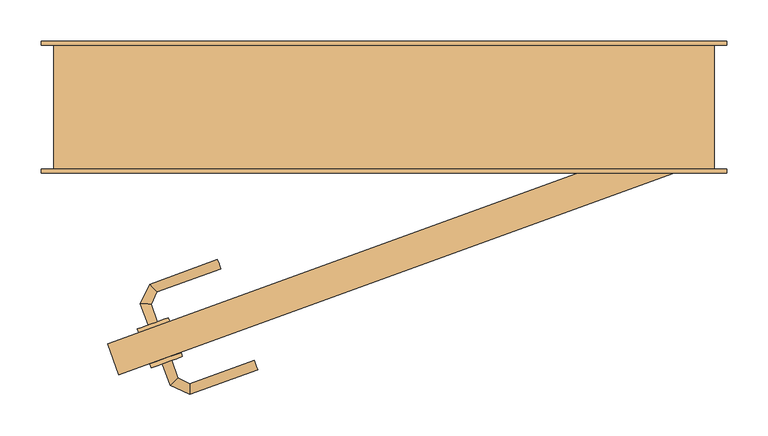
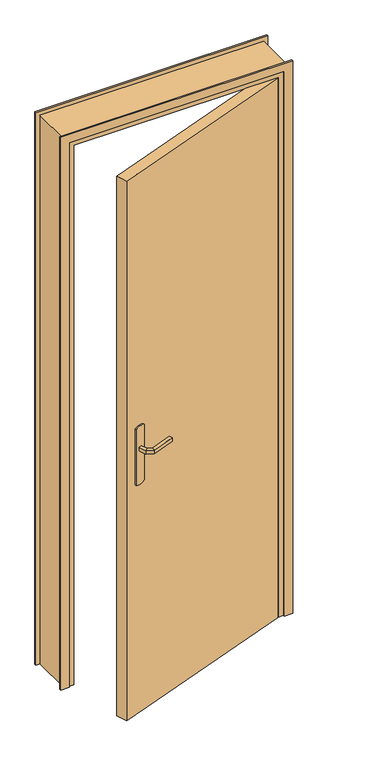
"""IFC4 building model written with IfcOpenShell, lengths in millimetres: door geometry, @_Int. Simple : @_PP (0.73m x 2.04m)."""

from ifc_helpers import new_model, si_unit, point, frame, frame_2d, origin, origin_with_axes, place, context, project, spatial, polyline, circle_curve, ellipse_curve, trimmed, segment, composite_curve, outline, extrude, faceted_brep, source, transform, mapped, element, save
from ifc_brep_helpers import plane_surface, cylinder_surface, advanced_brep


def door_72424c43(model_context):
    return source(origin(), model_context, "Body", "SolidModel", [
        extrude(outline(composite_curve([segment(trimmed(circle_curve(frame_2d((0.0, -40.0)), 40.0), [point((-34.6410162, -60.0))], [point((-34.6410162, -20.0))], False, "CARTESIAN"), True, "CONTINUOUS"), segment(polyline([(-34.6410162, -20.0), (175.3589838, -20.0)]), True, "CONTINUOUS"), segment(trimmed(circle_curve(frame_2d((140.7179676, -40.0)), 40.0), [point((175.3589838, -20.0))], [point((175.3589838, -60.0))], False, "CARTESIAN"), True, "CONTINUOUS"), segment(polyline([(175.3589838, -60.0), (-34.6410162, -60.0)]), True, "CONTINUOUS")], self_intersect=False)), frame((-260.2962504, -295.1711534, 904.6410162), z_axis=(-0.3420201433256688, 0.9396926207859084, 0.0), x_axis=(0.0, 0.0, 1.0)), (0.0, 0.0, 1.0), 5.0),
        extrude(outline(composite_curve([segment(trimmed(circle_curve(frame_2d((0.0, -40.0000001)), 40.0), [point((34.6410162, -20.0))], [point((34.6410162, -60.0))], False, "CARTESIAN"), True, "CONTINUOUS"), segment(polyline([(34.6410162, -60.0), (-175.3589838, -60.0)]), True, "CONTINUOUS"), segment(trimmed(circle_curve(frame_2d((-140.7179676, -40.0000001)), 40.0), [point((-175.3589838, -60.0))], [point((-175.3589838, -20.0))], False, "CARTESIAN"), True, "CONTINUOUS"), segment(polyline([(-175.3589838, -20.0), (34.6410162, -20.0)]), True, "CONTINUOUS")], self_intersect=False)), frame((-275.6871568, -252.8849855, 1045.3589838), z_axis=(-0.3420201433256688, 0.9396926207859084, 0.0), x_axis=(0.0, 0.0, 1.0)), (0.0, 0.0, 1.0), 5.0),
        advanced_brep(
        [(-303.5221109, -310.90408, 1007.0), (-292.2457995, -306.7998383, 1007.0), (-292.2457995, -306.7998383, 993.0), (-303.5221109, -310.90408, 993.0), (-294.0649288, -336.8874743, 1007.0), (-284.4886499, -328.1124315, 1007.0), (-284.4886499, -328.1124315, 993.0), (-294.0649288, -336.8874743, 993.0), (-270.5106242, -347.8710269, 1007.0), (-269.9440648, -334.8946829, 1007.0), (-269.9440648, -334.8946829, 993.0), (-270.5106242, -347.8710269, 993.0), (-188.1546186, -317.8958923, 1007.0), (-188.1546186, -317.8958923, 993.0), (-192.2588603, -306.6195808, 993.0), (-192.2588603, -306.6195808, 1007.0)],
        [
            (0, 1, circle_curve(frame((-297.8839552, -308.8519591, 986.9542278), z_axis=(-0.34202014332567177, 0.9396926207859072, 0.0), x_axis=(0.9396926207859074, 0.3420201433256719, 0.0)), 20.9244589)),
            (1, 2),
            (2, 3, circle_curve(frame((-297.8839552, -308.8519591, 1013.0457722), z_axis=(-0.34202014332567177, 0.9396926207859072, 0.0), x_axis=(0.9396926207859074, 0.3420201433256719, 0.0)), 20.9244589)),
            (3, 0),
            (0, 4),
            (4, 5, ellipse_curve(frame((-289.2767894, -332.4999529, 986.9542278), z_axis=(-0.6755902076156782, 0.7372773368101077, 0.0), x_axis=(0.7372773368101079, 0.6755902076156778, 0.0)), 22.6484711, 20.9244589)),
            (5, 1),
            (5, 6),
            (6, 2),
            (6, 7, ellipse_curve(frame((-289.2767894, -332.4999529, 1013.0457722), z_axis=(-0.6755902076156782, 0.7372773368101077, 0.0), x_axis=(0.7372773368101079, 0.6755902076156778, 0.0)), 22.6484711, 20.9244589)),
            (7, 3),
            (7, 4),
            (4, 8),
            (8, 9, ellipse_curve(frame((-270.2273445, -341.3828549, 986.9542278), z_axis=(-0.9990482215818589, 0.0436193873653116, 0.0), x_axis=(0.04361938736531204, 0.9990482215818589, 0.0)), 22.6484711, 20.9244589)),
            (9, 5),
            (9, 10),
            (10, 6),
            (10, 11, ellipse_curve(frame((-270.2273445, -341.3828549, 1013.0457722), z_axis=(-0.9990482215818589, 0.0436193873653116, 0.0), x_axis=(0.04361938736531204, 0.9990482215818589, 0.0)), 22.6484711, 20.9244589)),
            (11, 7),
            (11, 8),
            (12, 13),
            (13, 14, circle_curve(frame((-190.2067394, -312.2577366, 1013.0457722), z_axis=(0.9396926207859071, 0.34202014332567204, 0.0), x_axis=(-0.34202014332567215, 0.9396926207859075, 0.0)), 20.9244589)),
            (14, 15),
            (15, 12, circle_curve(frame((-190.2067394, -312.2577366, 986.9542278), z_axis=(0.9396926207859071, 0.34202014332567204, 0.0), x_axis=(-0.34202014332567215, 0.9396926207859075, 0.0)), 20.9244589)),
            (8, 12),
            (15, 9),
            (14, 10),
            (13, 11),
        ],
        [
            plane_surface(frame((-306.5474931, -312.005229, 1000.0), z_axis=(-0.3420201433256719, 0.9396926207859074, 0.0), x_axis=(0.0, 0.0, -1.0))),
            cylinder_surface(frame((-297.8839552, -308.8519591, 986.9542278), z_axis=(-0.34202014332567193, 0.9396926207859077, 0.0), x_axis=(0.9396926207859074, 0.3420201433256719, 0.0)), 20.9244589),
            plane_surface(frame((-292.2457995, -306.7998383, 1007.0), z_axis=(0.9396926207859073, 0.3420201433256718, 0.0), x_axis=(0.3420201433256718, -0.9396926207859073, 0.0))),
            cylinder_surface(frame((-297.8839552, -308.8519591, 1013.0457722), z_axis=(-0.34202014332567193, 0.9396926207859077, 0.0), x_axis=(0.9396926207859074, 0.3420201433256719, 0.0)), 20.9244589),
            plane_surface(frame((-303.5221109, -310.90408, 993.0), z_axis=(-0.9396926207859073, -0.3420201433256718, 0.0), x_axis=(0.3420201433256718, -0.9396926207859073, 0.0))),
            cylinder_surface(frame((-289.2767894, -332.4999529, 986.9542278), z_axis=(-0.9063077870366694, 0.4226182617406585, 0.0), x_axis=(0.4226182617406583, 0.9063077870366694, 0.0)), 20.9244589),
            plane_surface(frame((-284.4886499, -328.1124315, 1007.0), z_axis=(0.4226182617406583, 0.9063077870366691, 0.0), x_axis=(0.9063077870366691, -0.4226182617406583, 0.0))),
            cylinder_surface(frame((-289.2767894, -332.4999529, 1013.0457722), z_axis=(-0.9063077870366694, 0.4226182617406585, 0.0), x_axis=(0.4226182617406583, 0.9063077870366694, 0.0)), 20.9244589),
            plane_surface(frame((-294.0649288, -336.8874743, 993.0), z_axis=(-0.4226182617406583, -0.9063077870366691, 0.0), x_axis=(0.9063077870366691, -0.4226182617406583, 0.0))),
            plane_surface(frame((-190.2067394, -312.2577366, 990.7804555), z_axis=(0.9396926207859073, 0.3420201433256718, 0.0), x_axis=(-0.3420201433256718, 0.9396926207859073, 0.0))),
            cylinder_surface(frame((-270.2273445, -341.3828549, 986.9542278), z_axis=(-0.9396926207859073, -0.3420201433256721, 0.0), x_axis=(-0.34202014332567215, 0.9396926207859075, 0.0)), 20.9244589),
            plane_surface(frame((-269.9440648, -334.8946829, 1007.0), z_axis=(-0.3420201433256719, 0.9396926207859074, 0.0), x_axis=(0.9396926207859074, 0.3420201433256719, 0.0))),
            cylinder_surface(frame((-270.2273445, -341.3828549, 1013.0457722), z_axis=(-0.9396926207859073, -0.3420201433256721, 0.0), x_axis=(-0.34202014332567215, 0.9396926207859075, 0.0)), 20.9244589),
            plane_surface(frame((-270.5106242, -347.8710269, 993.0), z_axis=(0.3420201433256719, -0.9396926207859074, 0.0), x_axis=(0.9396926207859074, 0.3420201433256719, 0.0))),
        ],
        [
            (0, [[1, 2, 3, 4]]),
            (1, [[-1, 5, 6, 7]]),
            (2, [[-2, -7, 8, 9]]),
            (3, [[-3, -9, 10, 11]]),
            (4, [[-4, -11, 12, -5]]),
            (5, [[-6, 13, 14, 15]]),
            (6, [[-8, -15, 16, 17]]),
            (7, [[-10, -17, 18, 19]]),
            (8, [[-12, -19, 20, -13]]),
            (9, [[21, 22, 23, 24]]),
            (10, [[-14, 25, -24, 26]]),
            (11, [[-16, -26, -23, 27]]),
            (12, [[-18, -27, -22, 28]]),
            (13, [[-20, -28, -21, -25]]),
        ],
    ),
        advanced_brep(
        [(-309.3468067, -259.8152072, 993.0), (-309.3468067, -259.8152072, 1007.0), (-320.6231181, -263.919449, 1007.0), (-320.6231181, -263.919449, 993.0), (-317.0371995, -238.6860265, 993.0), (-317.0371995, -238.6860265, 1007.0), (-330.0135436, -238.1194671, 1007.0), (-330.0135436, -238.1194671, 993.0), (-310.1727629, -223.9651947, 993.0), (-310.1727629, -223.9651947, 1007.0), (-318.9478058, -214.3889159, 1007.0), (-318.9478058, -214.3889159, 993.0), (-232.5912682, -195.7278399, 993.0), (-236.6955099, -184.4515285, 993.0), (-236.6955099, -184.4515285, 1007.0), (-232.5912682, -195.7278399, 1007.0)],
        [
            (0, 1),
            (1, 2, circle_curve(frame((-314.9849624, -261.8673281, 986.9542278), z_axis=(0.34202014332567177, -0.9396926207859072, 0.0), x_axis=(-0.9396926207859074, -0.3420201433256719, 0.0)), 20.9244589)),
            (2, 3),
            (3, 0, circle_curve(frame((-314.9849624, -261.8673281, 1013.0457722), z_axis=(0.34202014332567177, -0.9396926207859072, 0.0), x_axis=(-0.9396926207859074, -0.3420201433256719, 0.0)), 20.9244589)),
            (0, 4),
            (4, 5),
            (5, 1),
            (5, 6, ellipse_curve(frame((-323.5253715, -238.4027468, 986.9542278), z_axis=(-0.04361938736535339, -0.9990482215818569, 0.0), x_axis=(0.9990482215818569, -0.043619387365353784, 0.0)), 22.6484711, 20.9244589)),
            (6, 2),
            (6, 7),
            (7, 3),
            (7, 4, ellipse_curve(frame((-323.5253715, -238.4027468, 1013.0457722), z_axis=(-0.04361938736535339, -0.9990482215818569, 0.0), x_axis=(0.9990482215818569, -0.043619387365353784, 0.0)), 22.6484711, 20.9244589)),
            (4, 8),
            (8, 9),
            (9, 5),
            (9, 10, ellipse_curve(frame((-314.5602844, -219.1770553, 986.9542278), z_axis=(-0.7372773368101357, -0.6755902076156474, 0.0), x_axis=(0.6755902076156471, -0.7372773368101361, 0.0)), 22.6484711, 20.9244589)),
            (10, 6),
            (10, 11),
            (11, 7),
            (11, 8, ellipse_curve(frame((-314.5602844, -219.1770553, 1013.0457722), z_axis=(-0.7372773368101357, -0.6755902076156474, 0.0), x_axis=(0.6755902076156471, -0.7372773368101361, 0.0)), 22.6484711, 20.9244589)),
            (12, 13, circle_curve(frame((-234.643389, -190.0896842, 1013.0457722), z_axis=(0.9396926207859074, 0.3420201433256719, 0.0), x_axis=(-0.34202014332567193, 0.9396926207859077, 0.0)), 20.9244589)),
            (13, 14),
            (14, 15, circle_curve(frame((-234.643389, -190.0896842, 986.9542278), z_axis=(0.9396926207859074, 0.3420201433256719, 0.0), x_axis=(-0.34202014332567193, 0.9396926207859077, 0.0)), 20.9244589)),
            (15, 12),
            (8, 12),
            (15, 9),
            (14, 10),
            (13, 11),
        ],
        [
            plane_surface(frame((-323.6485003, -265.020598, 1000.0), z_axis=(0.3420201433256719, -0.9396926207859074, 0.0), x_axis=(0.0, 0.0, 1.0))),
            plane_surface(frame((-309.3468067, -259.8152072, 993.0), z_axis=(0.9396926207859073, 0.3420201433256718, 0.0), x_axis=(-0.3420201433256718, 0.9396926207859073, 0.0))),
            cylinder_surface(frame((-314.9849624, -261.8673281, 986.9542278), z_axis=(0.34202014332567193, -0.9396926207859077, 0.0), x_axis=(-0.9396926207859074, -0.3420201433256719, 0.0)), 20.9244589),
            plane_surface(frame((-320.6231181, -263.919449, 1007.0), z_axis=(-0.9396926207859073, -0.3420201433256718, 0.0), x_axis=(-0.3420201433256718, 0.9396926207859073, 0.0))),
            cylinder_surface(frame((-314.9849624, -261.8673281, 1013.0457722), z_axis=(0.34202014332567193, -0.9396926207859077, 0.0), x_axis=(-0.9396926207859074, -0.3420201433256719, 0.0)), 20.9244589),
            plane_surface(frame((-317.0371995, -238.6860265, 993.0), z_axis=(0.906307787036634, -0.4226182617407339, 0.0), x_axis=(0.4226182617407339, 0.906307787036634, 0.0))),
            cylinder_surface(frame((-323.5253715, -238.4027468, 986.9542278), z_axis=(-0.422618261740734, -0.9063077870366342, 0.0), x_axis=(-0.9063077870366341, 0.42261826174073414, 0.0)), 20.9244589),
            plane_surface(frame((-330.0135436, -238.1194671, 1007.0), z_axis=(-0.9063077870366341, 0.42261826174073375, 0.0), x_axis=(0.42261826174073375, 0.9063077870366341, 0.0))),
            cylinder_surface(frame((-323.5253715, -238.4027468, 1013.0457722), z_axis=(-0.422618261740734, -0.9063077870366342, 0.0), x_axis=(-0.9063077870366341, 0.42261826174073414, 0.0)), 20.9244589),
            plane_surface(frame((-234.643389, -190.0896842, 990.7804555), z_axis=(0.9396926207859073, 0.3420201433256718, 0.0), x_axis=(-0.3420201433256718, 0.9396926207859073, 0.0))),
            plane_surface(frame((-310.1727629, -223.9651947, 993.0), z_axis=(0.3420201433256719, -0.9396926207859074, 0.0), x_axis=(0.9396926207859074, 0.3420201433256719, 0.0))),
            cylinder_surface(frame((-314.5602844, -219.1770553, 986.9542278), z_axis=(-0.9396926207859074, -0.3420201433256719, 0.0), x_axis=(-0.34202014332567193, 0.9396926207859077, 0.0)), 20.9244589),
            plane_surface(frame((-318.9478058, -214.3889159, 1007.0), z_axis=(-0.3420201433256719, 0.9396926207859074, 0.0), x_axis=(0.9396926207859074, 0.3420201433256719, 0.0))),
            cylinder_surface(frame((-314.5602844, -219.1770553, 1013.0457722), z_axis=(-0.9396926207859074, -0.3420201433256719, 0.0), x_axis=(-0.34202014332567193, 0.9396926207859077, 0.0)), 20.9244589),
        ],
        [
            (0, [[1, 2, 3, 4]]),
            (1, [[-1, 5, 6, 7]]),
            (2, [[-2, -7, 8, 9]]),
            (3, [[-3, -9, 10, 11]]),
            (4, [[-4, -11, 12, -5]]),
            (5, [[-6, 13, 14, 15]]),
            (6, [[-8, -15, 16, 17]]),
            (7, [[-10, -17, 18, 19]]),
            (8, [[-12, -19, 20, -13]]),
            (9, [[21, 22, 23, 24]]),
            (10, [[-14, 25, -24, 26]]),
            (11, [[-16, -26, -23, 27]]),
            (12, [[-18, -27, -22, 28]]),
            (13, [[-20, -28, -21, -25]]),
        ],
    ),
        extrude(outline(polyline([(-369.6564189, -287.0869998), (316.3191943, -37.4122952), (330.0, -75.0), (-355.9756132, -324.6747046), (-369.6564189, -287.0869998)])), origin_with_axes(), (0.0, 0.0, 1.0), 2040.0),
        faceted_brep([(-435.0, -75.0, 0.0), (-435.0, 75.0, 0.0), (-385.0, 75.0, 0.0), (-385.0, -35.0, 0.0), (-400.0, -35.0, 0.0), (-400.0, -75.0, 0.0), (-435.0, -75.0, 2075.0), (-435.0, 75.0, 2075.0), (365.0, 75.0, 2075.0), (365.0, 75.0, 0.0), (315.0, 75.0, 0.0), (315.0, 75.0, 2025.0), (-385.0, 75.0, 2025.0), (-385.0, -35.0, 2025.0), (315.0, -35.0, 2025.0), (315.0, -35.0, 0.0), (330.0, -35.0, 0.0), (330.0, -35.0, 2040.0), (-400.0, -35.0, 2040.0), (-400.0, -75.0, 2040.0), (330.0, -75.0, 2040.0), (330.0, -75.0, 0.0), (365.0, -75.0, 0.0), (365.0, -75.0, 2075.0)], [[[0, 1, 2, 3, 4, 5]], [[1, 0, 6, 7]], [[2, 1, 7, 8, 9, 10, 11, 12]], [[3, 2, 12, 13]], [[4, 3, 13, 14, 15, 16, 17, 18]], [[5, 4, 18, 19]], [[0, 5, 19, 20, 21, 22, 23, 6]], [[8, 23, 22, 9]], [[22, 21, 16, 15, 10, 9]], [[14, 11, 10, 15]], [[20, 17, 16, 21]], [[7, 6, 23, 8]], [[13, 12, 11, 14]], [[19, 18, 17, 20]]]),
        extrude(outline(polyline([(0.0, -450.0), (0.0, -420.0), (2060.0, -420.0), (2060.0, 350.0), (0.0, 350.0), (0.0, 380.0), (2090.0, 380.0), (2090.0, -450.0), (0.0, -450.0)])), frame((0.0, -80.0, 0.0), z_axis=(0.0, 1.0, 0.0), x_axis=(0.0, 0.0, 1.0)), (0.0, 0.0, 1.0), 5.0),
        extrude(outline(polyline([(0.0, -450.0), (0.0, -420.0), (2060.0, -420.0), (2060.0, 350.0), (0.0, 350.0), (0.0, 380.0), (2090.0, 380.0), (2090.0, -450.0), (0.0, -450.0)])), frame((0.0, 75.0, 0.0), z_axis=(0.0, 1.0, 0.0), x_axis=(0.0, 0.0, 1.0)), (0.0, 0.0, 1.0), 5.0),
    ])


if __name__ == "__main__":
    model = new_model("IFC4")
    model_context = context("Model", 3, world=origin())
    ifc_project = project(units=[si_unit("LENGTHUNIT", "METRE", prefix="MILLI")], contexts=[model_context])
    site = spatial("IfcSite", under=ifc_project)
    building = spatial("IfcBuilding", under=site)
    placement = place(None, origin())
    door_shape = door_72424c43(model_context)
    element("IfcDoor", 1, ObjectType="@_Int. Simple : @_PP (0.73m x 2.04m)", at=placement, inside=building, context=model_context, shape_type="MappedRepresentation", body=[
        mapped(door_shape, transform((0.0, 0.0, 0.0), x_axis=(1.0, 0.0, 0.0), y_axis=(0.0, 1.0, 0.0), z_axis=(0.0, 0.0, 1.0))),
    ])
    save(model, "model.ifc")
